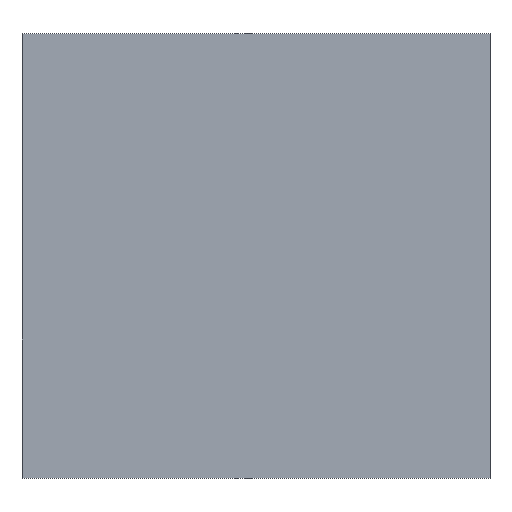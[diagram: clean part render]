
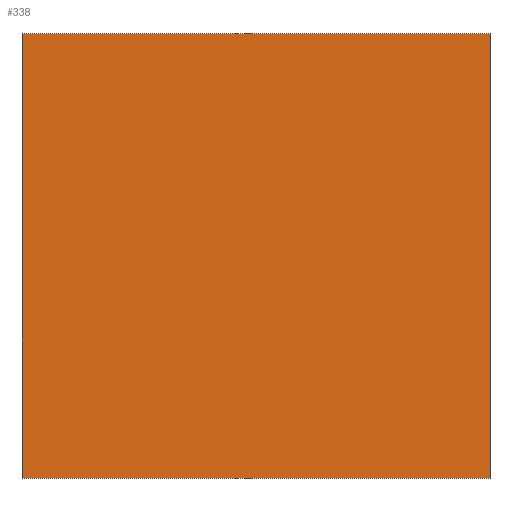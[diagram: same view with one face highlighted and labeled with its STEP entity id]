
A CAD part, top view. The second image highlights one B-rep face of the part: STEP entity #338.
In plain terms, the highlighted planar face has unit normal (0, 0, 1).
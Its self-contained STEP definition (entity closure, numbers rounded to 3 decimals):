
#24 = VERTEX_POINT('',#25);
#25 = CARTESIAN_POINT('',(-2.,-1.9,1.1));
#32 = PLANE('',#33);
#33 = AXIS2_PLACEMENT_3D('',#34,#35,#36);
#34 = CARTESIAN_POINT('',(-2.,-1.9,0.));
#35 = DIRECTION('',(1.,0.,0.));
#36 = DIRECTION('',(0.,0.,1.));
#44 = PLANE('',#45);
#45 = AXIS2_PLACEMENT_3D('',#46,#47,#48);
#46 = CARTESIAN_POINT('',(-2.,-1.9,0.));
#47 = DIRECTION('',(0.,1.,0.));
#48 = DIRECTION('',(0.,0.,1.));
#85 = VERTEX_POINT('',#86);
#86 = CARTESIAN_POINT('',(-2.,1.9,1.1));
#100 = PLANE('',#101);
#101 = AXIS2_PLACEMENT_3D('',#102,#103,#104);
#102 = CARTESIAN_POINT('',(-2.,1.9,0.));
#103 = DIRECTION('',(0.,1.,0.));
#104 = DIRECTION('',(0.,0.,1.));
#112 = EDGE_CURVE('',#24,#85,#113,.T.);
#113 = SURFACE_CURVE('',#114,(#118,#125),.PCURVE_S1.);
#114 = LINE('',#115,#116);
#115 = CARTESIAN_POINT('',(-2.,-1.9,1.1));
#116 = VECTOR('',#117,1.);
#117 = DIRECTION('',(0.,1.,0.));
#118 = PCURVE('',#32,#119);
#119 = DEFINITIONAL_REPRESENTATION('',(#120),#124);
#120 = LINE('',#121,#122);
#121 = CARTESIAN_POINT('',(1.1,0.));
#122 = VECTOR('',#123,1.);
#123 = DIRECTION('',(0.,-1.));
#124 = ( GEOMETRIC_REPRESENTATION_CONTEXT(2) 
PARAMETRIC_REPRESENTATION_CONTEXT() REPRESENTATION_CONTEXT('2D SPACE',''
  ) );
#125 = PCURVE('',#126,#131);
#126 = PLANE('',#127);
#127 = AXIS2_PLACEMENT_3D('',#128,#129,#130);
#128 = CARTESIAN_POINT('',(-2.,-1.9,1.1));
#129 = DIRECTION('',(0.,0.,1.));
#130 = DIRECTION('',(1.,0.,0.));
#131 = DEFINITIONAL_REPRESENTATION('',(#132),#136);
#132 = LINE('',#133,#134);
#133 = CARTESIAN_POINT('',(0.,0.));
#134 = VECTOR('',#135,1.);
#135 = DIRECTION('',(0.,1.));
#136 = ( GEOMETRIC_REPRESENTATION_CONTEXT(2) 
PARAMETRIC_REPRESENTATION_CONTEXT() REPRESENTATION_CONTEXT('2D SPACE',''
  ) );
#144 = VERTEX_POINT('',#145);
#145 = CARTESIAN_POINT('',(2.,-1.9,1.1));
#152 = PLANE('',#153);
#153 = AXIS2_PLACEMENT_3D('',#154,#155,#156);
#154 = CARTESIAN_POINT('',(2.,-1.9,0.));
#155 = DIRECTION('',(1.,0.,0.));
#156 = DIRECTION('',(0.,0.,1.));
#195 = VERTEX_POINT('',#196);
#196 = CARTESIAN_POINT('',(2.,1.9,1.1));
#217 = EDGE_CURVE('',#144,#195,#218,.T.);
#218 = SURFACE_CURVE('',#219,(#223,#230),.PCURVE_S1.);
#219 = LINE('',#220,#221);
#220 = CARTESIAN_POINT('',(2.,-1.9,1.1));
#221 = VECTOR('',#222,1.);
#222 = DIRECTION('',(0.,1.,0.));
#223 = PCURVE('',#152,#224);
#224 = DEFINITIONAL_REPRESENTATION('',(#225),#229);
#225 = LINE('',#226,#227);
#226 = CARTESIAN_POINT('',(1.1,0.));
#227 = VECTOR('',#228,1.);
#228 = DIRECTION('',(0.,-1.));
#229 = ( GEOMETRIC_REPRESENTATION_CONTEXT(2) 
PARAMETRIC_REPRESENTATION_CONTEXT() REPRESENTATION_CONTEXT('2D SPACE',''
  ) );
#230 = PCURVE('',#126,#231);
#231 = DEFINITIONAL_REPRESENTATION('',(#232),#236);
#232 = LINE('',#233,#234);
#233 = CARTESIAN_POINT('',(4.,0.));
#234 = VECTOR('',#235,1.);
#235 = DIRECTION('',(0.,1.));
#236 = ( GEOMETRIC_REPRESENTATION_CONTEXT(2) 
PARAMETRIC_REPRESENTATION_CONTEXT() REPRESENTATION_CONTEXT('2D SPACE',''
  ) );
#263 = EDGE_CURVE('',#24,#144,#264,.T.);
#264 = SURFACE_CURVE('',#265,(#269,#276),.PCURVE_S1.);
#265 = LINE('',#266,#267);
#266 = CARTESIAN_POINT('',(-2.,-1.9,1.1));
#267 = VECTOR('',#268,1.);
#268 = DIRECTION('',(1.,0.,0.));
#269 = PCURVE('',#44,#270);
#270 = DEFINITIONAL_REPRESENTATION('',(#271),#275);
#271 = LINE('',#272,#273);
#272 = CARTESIAN_POINT('',(1.1,0.));
#273 = VECTOR('',#274,1.);
#274 = DIRECTION('',(0.,1.));
#275 = ( GEOMETRIC_REPRESENTATION_CONTEXT(2) 
PARAMETRIC_REPRESENTATION_CONTEXT() REPRESENTATION_CONTEXT('2D SPACE',''
  ) );
#276 = PCURVE('',#126,#277);
#277 = DEFINITIONAL_REPRESENTATION('',(#278),#282);
#278 = LINE('',#279,#280);
#279 = CARTESIAN_POINT('',(0.,0.));
#280 = VECTOR('',#281,1.);
#281 = DIRECTION('',(1.,0.));
#282 = ( GEOMETRIC_REPRESENTATION_CONTEXT(2) 
PARAMETRIC_REPRESENTATION_CONTEXT() REPRESENTATION_CONTEXT('2D SPACE',''
  ) );
#310 = EDGE_CURVE('',#85,#195,#311,.T.);
#311 = SURFACE_CURVE('',#312,(#316,#323),.PCURVE_S1.);
#312 = LINE('',#313,#314);
#313 = CARTESIAN_POINT('',(-2.,1.9,1.1));
#314 = VECTOR('',#315,1.);
#315 = DIRECTION('',(1.,0.,0.));
#316 = PCURVE('',#100,#317);
#317 = DEFINITIONAL_REPRESENTATION('',(#318),#322);
#318 = LINE('',#319,#320);
#319 = CARTESIAN_POINT('',(1.1,0.));
#320 = VECTOR('',#321,1.);
#321 = DIRECTION('',(0.,1.));
#322 = ( GEOMETRIC_REPRESENTATION_CONTEXT(2) 
PARAMETRIC_REPRESENTATION_CONTEXT() REPRESENTATION_CONTEXT('2D SPACE',''
  ) );
#323 = PCURVE('',#126,#324);
#324 = DEFINITIONAL_REPRESENTATION('',(#325),#329);
#325 = LINE('',#326,#327);
#326 = CARTESIAN_POINT('',(0.,3.8));
#327 = VECTOR('',#328,1.);
#328 = DIRECTION('',(1.,0.));
#329 = ( GEOMETRIC_REPRESENTATION_CONTEXT(2) 
PARAMETRIC_REPRESENTATION_CONTEXT() REPRESENTATION_CONTEXT('2D SPACE',''
  ) );
#338 = ADVANCED_FACE('',(#339),#126,.T.);
#339 = FACE_BOUND('',#340,.T.);
#340 = EDGE_LOOP('',(#341,#342,#343,#344));
#341 = ORIENTED_EDGE('',*,*,#112,.F.);
#342 = ORIENTED_EDGE('',*,*,#263,.T.);
#343 = ORIENTED_EDGE('',*,*,#217,.T.);
#344 = ORIENTED_EDGE('',*,*,#310,.F.);
